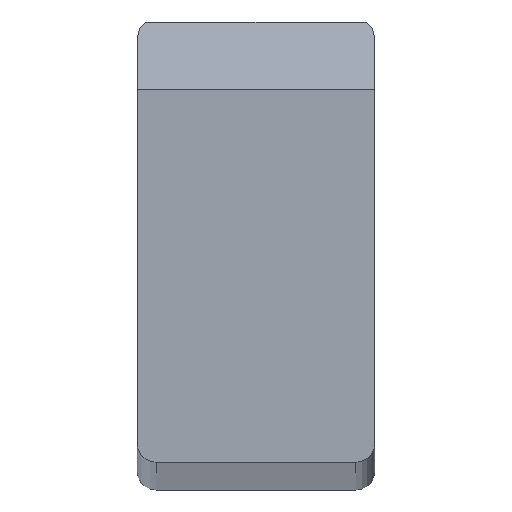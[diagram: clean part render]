
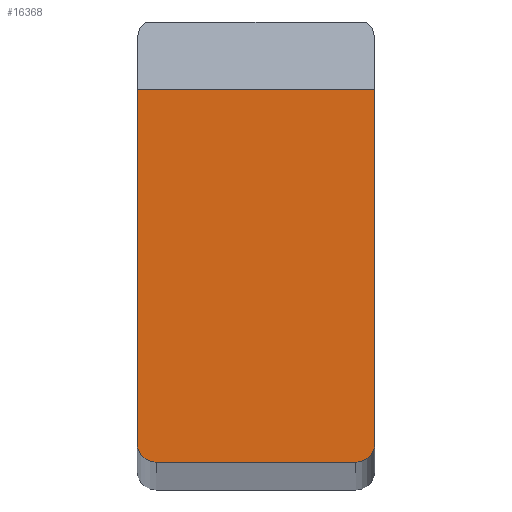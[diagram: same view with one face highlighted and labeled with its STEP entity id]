
A CAD part, top view. The second image highlights one B-rep face of the part: STEP entity #16368.
In plain terms, the highlighted planar face has unit normal (0, 0, 1).
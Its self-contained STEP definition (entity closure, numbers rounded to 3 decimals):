
#399 = PLANE ( 'NONE',  #21534 ) ;
#696 = CARTESIAN_POINT ( 'NONE',  ( 13.8, 1.2, 1000. ) ) ;
#1534 = EDGE_LOOP ( 'NONE', ( #7293, #17037, #22597, #28871, #29058, #19183 ) ) ;
#2771 = VECTOR ( 'NONE', #24190, 1000. ) ;
#2905 = VECTOR ( 'NONE', #17801, 1000. ) ;
#3081 = DIRECTION ( 'NONE',  ( -1., 0., 0. ) ) ;
#3216 = LINE ( 'NONE', #20146, #2905 ) ;
#3449 = EDGE_CURVE ( 'NONE', #5621, #7427, #16078, .T. ) ;
#3759 = VERTEX_POINT ( 'NONE', #10951 ) ;
#4628 = CARTESIAN_POINT ( 'NONE',  ( 0., 0., 1000. ) ) ;
#4965 = CARTESIAN_POINT ( 'NONE',  ( 13.8, 0., 1000. ) ) ;
#5621 = VERTEX_POINT ( 'NONE', #28446 ) ;
#5734 = VERTEX_POINT ( 'NONE', #4965 ) ;
#7056 = DIRECTION ( 'NONE',  ( 0., -1., 0. ) ) ;
#7293 = ORIENTED_EDGE ( 'NONE', *, *, #21181, .T. ) ;
#7427 = VERTEX_POINT ( 'NONE', #11241 ) ;
#7941 = EDGE_CURVE ( 'NONE', #3759, #5621, #11616, .T. ) ;
#9319 = VERTEX_POINT ( 'NONE', #22897 ) ;
#9818 = CARTESIAN_POINT ( 'NONE',  ( 15., 0., 1000. ) ) ;
#9820 = CARTESIAN_POINT ( 'NONE',  ( 15., 1.2, 1000. ) ) ;
#9888 = CIRCLE ( 'NONE', #25087, 1.2 ) ;
#9989 = DIRECTION ( 'NONE',  ( 0., 0., -1. ) ) ;
#10951 = CARTESIAN_POINT ( 'NONE',  ( 0., 23.55, 1000. ) ) ;
#11016 = VECTOR ( 'NONE', #19872, 1000. ) ;
#11241 = CARTESIAN_POINT ( 'NONE',  ( 1.2, 0., 1000. ) ) ;
#11524 = EDGE_CURVE ( 'NONE', #7427, #5734, #3216, .T. ) ;
#11616 = LINE ( 'NONE', #4628, #24375 ) ;
#11780 = LINE ( 'NONE', #17441, #11016 ) ;
#12469 = DIRECTION ( 'NONE',  ( 0., 0., 1. ) ) ;
#15222 = VERTEX_POINT ( 'NONE', #9820 ) ;
#16078 = CIRCLE ( 'NONE', #24989, 1.2 ) ;
#16368 = ADVANCED_FACE ( 'NONE', ( #21283 ), #399, .F. ) ;
#17037 = ORIENTED_EDGE ( 'NONE', *, *, #20468, .T. ) ;
#17393 = DIRECTION ( 'NONE',  ( 0., 0., 1. ) ) ;
#17441 = CARTESIAN_POINT ( 'NONE',  ( 0., 23.55, 1000. ) ) ;
#17801 = DIRECTION ( 'NONE',  ( 1., 0., 0. ) ) ;
#19183 = ORIENTED_EDGE ( 'NONE', *, *, #20744, .T. ) ;
#19872 = DIRECTION ( 'NONE',  ( -1., 0., 0. ) ) ;
#20146 = CARTESIAN_POINT ( 'NONE',  ( 0., 0., 1000. ) ) ;
#20468 = EDGE_CURVE ( 'NONE', #9319, #3759, #11780, .T. ) ;
#20744 = EDGE_CURVE ( 'NONE', #5734, #15222, #9888, .T. ) ;
#21181 = EDGE_CURVE ( 'NONE', #15222, #9319, #28992, .T. ) ;
#21283 = FACE_OUTER_BOUND ( 'NONE', #1534, .T. ) ;
#21534 = AXIS2_PLACEMENT_3D ( 'NONE', #24358, #9989, #26772 ) ;
#22597 = ORIENTED_EDGE ( 'NONE', *, *, #7941, .T. ) ;
#22897 = CARTESIAN_POINT ( 'NONE',  ( 15., 23.55, 1000. ) ) ;
#24190 = DIRECTION ( 'NONE',  ( 0., 1., 0. ) ) ;
#24358 = CARTESIAN_POINT ( 'NONE',  ( 0., 28., 1000. ) ) ;
#24375 = VECTOR ( 'NONE', #7056, 1000. ) ;
#24989 = AXIS2_PLACEMENT_3D ( 'NONE', #26865, #12469, #29257 ) ;
#25087 = AXIS2_PLACEMENT_3D ( 'NONE', #696, #17393, #3081 ) ;
#26772 = DIRECTION ( 'NONE',  ( -1., 0., 0. ) ) ;
#26865 = CARTESIAN_POINT ( 'NONE',  ( 1.2, 1.2, 1000. ) ) ;
#28446 = CARTESIAN_POINT ( 'NONE',  ( 0., 1.2, 1000. ) ) ;
#28871 = ORIENTED_EDGE ( 'NONE', *, *, #3449, .T. ) ;
#28992 = LINE ( 'NONE', #9818, #2771 ) ;
#29058 = ORIENTED_EDGE ( 'NONE', *, *, #11524, .T. ) ;
#29257 = DIRECTION ( 'NONE',  ( -1., 0., 0. ) ) ;
